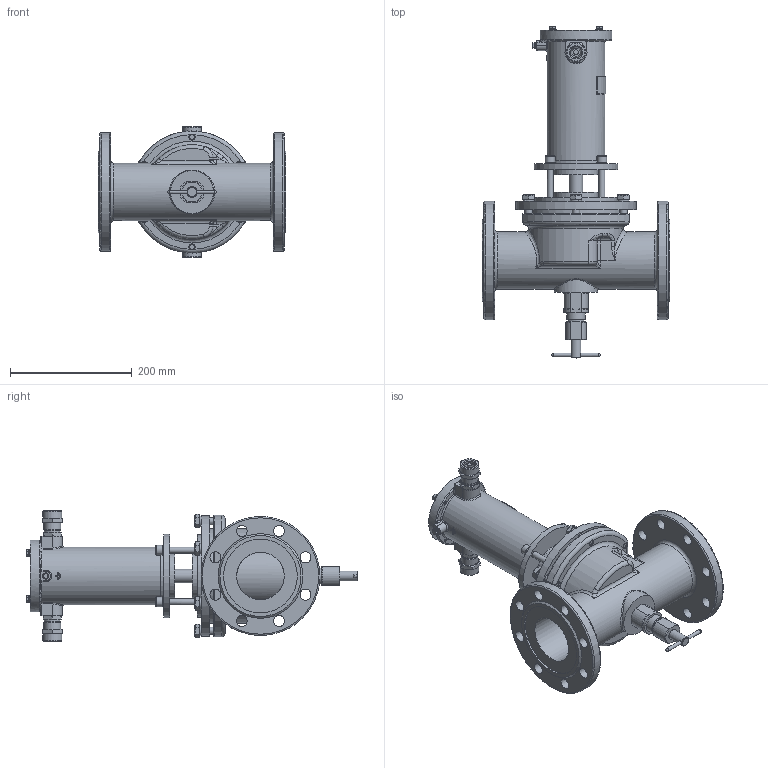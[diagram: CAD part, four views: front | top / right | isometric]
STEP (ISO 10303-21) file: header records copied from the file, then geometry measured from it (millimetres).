
FILE_DESCRIPTION(('STEP AP203'), '1');
FILE_NAME('ÑÅÍÑ DN80PN25-Â-ÍÎ-200Ñ.stp', '2018-09-19T08:54:12', ('Îðëîâ Å.Â.'), ('ÎÎÎ ÍÏÏ Ñåíñîð'), 'ASCON STEP Converter 1.3', 'Kompas 3D', '');
FILE_SCHEMA(('CONFIG_CONTROL_DESIGN','SUPPORT_RESOURCE_SCHEMA'));
Length unit declared in the file: millimetre
Products named in the file (1): 97
Bounding box: 308 x 544.7 x 214 mm (x, y, z)
Volume: 3514710.4 mm3; surface area: 780948.6 mm2
Topology: 3 solids, 24 shells, 2152 faces, 5681 edges, 3666 vertices
Faces by surface type: cylinder 1051, plane 811, cone 160, bspline 56, torus 50, extrusion 16, sphere 8
Full cylindrical faces by diameter (mm): 3.5 x2, 4.134 x1, 4.917 x7, 5 x1, 6 x9, 6.5 x4, 8 x8, 8.2 x1, 8.376 x4, 9 x1, 10 x5, 10.106 x6, 11 x5, 12 x10, 13 x8, 16 x6, 17 x2, 18 x17, 18.632 x2, 20 x3, 22 x3, 22.376 x2, 23 x1, 23.5 x2, 24 x2, 24.5 x2, 26 x4, 26.376 x2, 27.8 x1, 28 x3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
Entity records: 85594 total; most frequent: CARTESIAN_POINT 31375, DIRECTION 11673, ORIENTED_EDGE 11286, EDGE_CURVE 5643, AXIS2_PLACEMENT_3D 4502, VERTEX_POINT 3666, VECTOR 2669, LINE 2653
